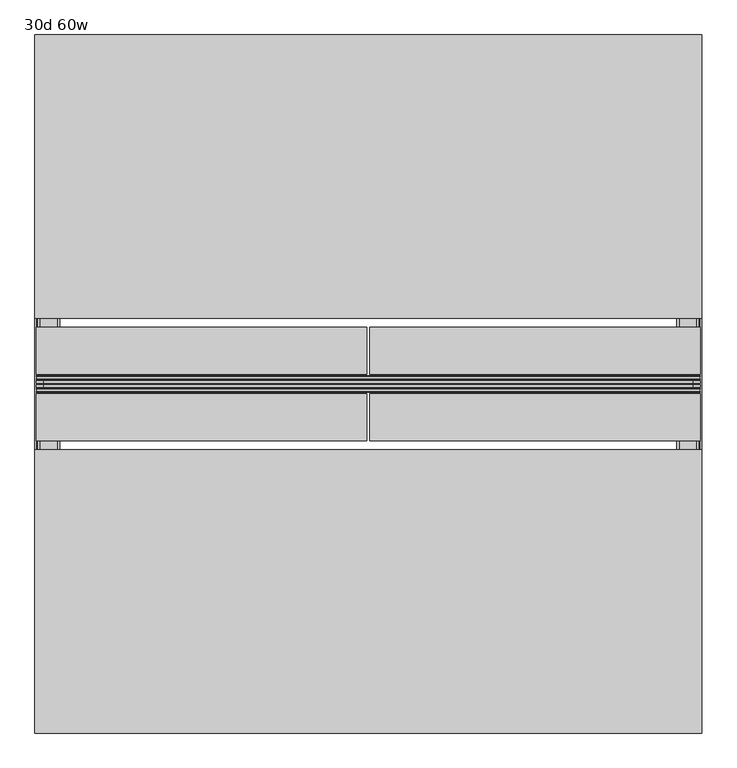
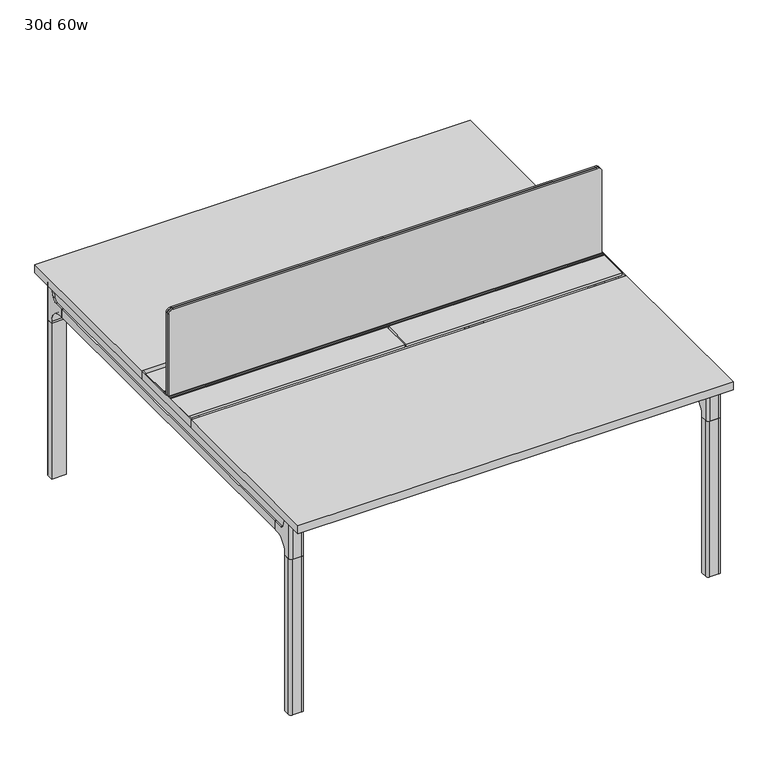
"""IFC4 building model written with IfcOpenShell, lengths in millimetres: furniture geometry, Haworth_Intuity_Benching_DoubleSided : 30d 60w."""

from ifc_helpers import new_model, si_unit, point, frame, frame_2d, origin, place, context, project, spatial, polyline, circle_curve, trimmed, segment, composite_curve, outline, extrude, source, transform, mapped, element, save
from ifc_brep_helpers import plane_surface, cylinder_surface, revolved_surface, advanced_brep


def furniture_30d_60w_e822043c(model_context):
    return source(origin(), model_context, "Body", "SolidModel", [
        extrude(outline(composite_curve([segment(polyline([(1054.89375, 955.675), (1054.89375, -523.875)]), True, "CONTINUOUS"), segment(trimmed(circle_curve(frame_2d((1039.01875, -523.875)), 15.875), [point((1054.89375, -523.875))], [point((1039.01875, -539.75))], False, "CARTESIAN"), True, "CONTINUOUS"), segment(polyline([(1039.01875, -539.75), (720.725, -539.75), (720.725, 971.55), (1039.01875, 971.55)]), True, "CONTINUOUS"), segment(trimmed(circle_curve(frame_2d((1039.01875, 955.675)), 15.875), [point((1039.01875, 971.55))], [point((1054.89375, 955.675))], False, "CARTESIAN"), True, "CONTINUOUS")], self_intersect=False)), frame((0.0, 198.1659766, 0.0), z_axis=(0.0, 1.0, 0.0), x_axis=(0.0, 0.0, 1.0)), (0.0, 0.0, 1.0), 3.175),
        extrude(outline(composite_curve([segment(polyline([(1058.06875, 958.85), (1058.06875, -527.05)]), True, "CONTINUOUS"), segment(trimmed(circle_curve(frame_2d((1042.19375, -527.05)), 15.875), [point((1058.06875, -527.05))], [point((1042.19375, -542.925))], False, "CARTESIAN"), True, "CONTINUOUS"), segment(polyline([(1042.19375, -542.925), (717.55, -542.925), (717.55, 974.725), (1042.19375, 974.725)]), True, "CONTINUOUS"), segment(trimmed(circle_curve(frame_2d((1042.19375, 958.85)), 15.875), [point((1042.19375, 974.725))], [point((1058.06875, 958.85))], False, "CARTESIAN"), True, "CONTINUOUS")], self_intersect=False)), frame((0.0, 192.6097266, 0.0), z_axis=(0.0, 1.0, 0.0), x_axis=(0.0, 0.0, 1.0)), (0.0, 0.0, 1.0), 5.55625),
        extrude(outline(composite_curve([segment(polyline([(1058.06875, 958.85), (1058.06875, -527.05)]), True, "CONTINUOUS"), segment(trimmed(circle_curve(frame_2d((1042.19375, -527.05)), 15.875), [point((1058.06875, -527.05))], [point((1042.19375, -542.925))], False, "CARTESIAN"), True, "CONTINUOUS"), segment(polyline([(1042.19375, -542.925), (717.55, -542.925), (717.55, 974.725), (1042.19375, 974.725)]), True, "CONTINUOUS"), segment(trimmed(circle_curve(frame_2d((1042.19375, 958.85)), 15.875), [point((1042.19375, 974.725))], [point((1058.06875, 958.85))], False, "CARTESIAN"), True, "CONTINUOUS")], self_intersect=False)), frame((0.0, 201.3409766, 0.0), z_axis=(0.0, 1.0, 0.0), x_axis=(0.0, 0.0, 1.0)), (0.0, 0.0, 1.0), 5.55625),
        extrude(outline(polyline([(218.8034766, 715.9625), (180.7034766, 715.9625), (180.7034766, 741.3625), (182.2909766, 741.3625), (182.2909766, 720.725), (188.6409766, 720.725), (188.6409766, 741.3625), (190.2284766, 741.3625), (190.2284766, 717.55), (209.2784766, 717.55), (209.2784766, 741.3625), (210.8659766, 741.3625), (210.8659766, 720.725), (217.2159766, 720.725), (217.2159766, 741.3625), (218.8034766, 741.3625), (218.8034766, 715.9625)])), frame((-542.925, 0.0, 0.0), z_axis=(1.0, 0.0, 0.0), x_axis=(0.0, 1.0, 0.0)), (0.0, 0.0, 1.0), 1517.65),
        extrude(outline(composite_curve([segment(polyline([(-505.8902734, 711.2), (905.3972266, 711.2), (896.3391258, 677.3947076)]), True, "CONTINUOUS"), segment(trimmed(circle_curve(frame_2d((881.0050533, 681.5034599)), 15.875), [point((896.3391258, 677.3947076))], [point((881.0050533, 665.6284599))], False, "CARTESIAN"), True, "CONTINUOUS"), segment(polyline([(881.0050533, 665.6284599), (-481.4981001, 665.6284599)]), True, "CONTINUOUS"), segment(trimmed(circle_curve(frame_2d((-481.4981001, 681.5034599)), 15.875), [point((-481.4981001, 665.6284599))], [point((-496.8321726, 677.3947076))], False, "CARTESIAN"), True, "CONTINUOUS"), segment(polyline([(-496.8321726, 677.3947076), (-505.8902734, 711.2)]), True, "CONTINUOUS")], self_intersect=False)), frame((927.1, 0.0, 0.0), z_axis=(1.0, 0.0, 0.0), x_axis=(0.0, 1.0, 0.0)), (0.0, 0.0, 1.0), 38.1),
        extrude(outline(polyline([(971.55, -445.5652734), (920.75, -445.5652734), (920.75, 845.0722266), (971.55, 845.0722266), (971.55, -445.5652734)])), frame((0.0, 0.0, 635.6476591), z_axis=(0.0, 0.0, 1.0), x_axis=(1.0, 0.0, 0.0)), (0.0, 0.0, 1.0), 29.9808008),
        extrude(outline(composite_curve([segment(polyline([(-505.8902734, 711.2), (905.3972266, 711.2), (896.3391258, 677.3947076)]), True, "CONTINUOUS"), segment(trimmed(circle_curve(frame_2d((881.0050533, 681.5034599)), 15.875), [point((896.3391258, 677.3947076))], [point((881.0050533, 665.6284599))], False, "CARTESIAN"), True, "CONTINUOUS"), segment(polyline([(881.0050533, 665.6284599), (-481.4981001, 665.6284599)]), True, "CONTINUOUS"), segment(trimmed(circle_curve(frame_2d((-481.4981001, 681.5034599)), 15.875), [point((-481.4981001, 665.6284599))], [point((-496.8321726, 677.3947076))], False, "CARTESIAN"), True, "CONTINUOUS"), segment(polyline([(-496.8321726, 677.3947076), (-505.8902734, 711.2)]), True, "CONTINUOUS")], self_intersect=False)), frame((-533.4, 0.0, 0.0), z_axis=(1.0, 0.0, 0.0), x_axis=(0.0, 1.0, 0.0)), (0.0, 0.0, 1.0), 38.1),
        extrude(outline(polyline([(-488.95, -445.5652734), (-539.75, -445.5652734), (-539.75, 845.0722266), (-488.95, 845.0722266), (-488.95, -445.5652734)])), frame((0.0, 0.0, 635.6476591), z_axis=(0.0, 0.0, 1.0), x_axis=(1.0, 0.0, 0.0)), (0.0, 0.0, 1.0), 29.9808008),
        advanced_brep(
        [(971.55, -505.9366022, 711.2), (971.55, -529.7027734, 711.2), (971.55, -529.7027734, 576.659375), (971.55, -507.4777734, 576.659375), (971.55, -507.4777734, 584.8476591), (971.55, -456.6777734, 635.6476591), (971.55, -445.5652734, 635.6476591), (971.55, -445.5652734, 665.6284599), (971.55, -481.5444289, 665.6284599), (971.55, -496.8785014, 677.3947076), (920.75, -507.4777734, 576.659375), (920.75, -529.7027734, 576.659375), (920.75, -529.7027734, 711.2), (920.75, -505.9366022, 711.2), (920.75, -496.8785014, 677.3947076), (920.75, -481.5444289, 665.6284599), (920.75, -445.5652734, 665.6284599), (920.75, -445.5652734, 635.6476591), (920.75, -456.6777734, 635.6476591), (920.75, -507.4777734, 584.8476591), (930.275, -539.2277734, 711.2), (962.025, -539.2277734, 711.2), (962.025, -539.2277734, 576.659375), (930.275, -539.2277734, 576.659375)],
        [
            (0, 1),
            (1, 2),
            (2, 3),
            (3, 4),
            (4, 5, circle_curve(frame((971.55, -456.6777734, 584.8476591), z_axis=(-1.0, 0.0, 0.0), x_axis=(0.0, -1.0, 0.0)), 50.8)),
            (5, 6),
            (6, 7),
            (7, 8),
            (8, 9, circle_curve(frame((971.55, -481.5444289, 681.5034599), z_axis=(-1.0, 0.0, 0.0), x_axis=(0.0, -1.0, 0.0)), 15.875)),
            (9, 0),
            (10, 11),
            (11, 12),
            (12, 13),
            (13, 14),
            (14, 15, circle_curve(frame((920.75, -481.5444289, 681.5034599), z_axis=(1.0, 0.0, 0.0), x_axis=(0.0, -1.0, 0.0)), 15.875)),
            (15, 16),
            (16, 17),
            (17, 18),
            (18, 19, circle_curve(frame((920.75, -456.6777734, 584.8476591), z_axis=(1.0, 0.0, 0.0), x_axis=(0.0, -1.0, 0.0)), 50.8)),
            (19, 10),
            (12, 20, circle_curve(frame((930.275, -529.7027734, 711.2), z_axis=(0.0, 0.0, 1.0), x_axis=(-1.0, 0.0, 0.0)), 9.525)),
            (20, 21),
            (21, 1, circle_curve(frame((962.025, -529.7027734, 711.2), z_axis=(0.0, 0.0, 1.0), x_axis=(-1.0, 0.0, 0.0)), 9.525)),
            (0, 13),
            (9, 14),
            (8, 15),
            (7, 16),
            (6, 17),
            (5, 18),
            (2, 22, circle_curve(frame((962.025, -529.7027734, 576.659375), z_axis=(0.0, 0.0, -1.0), x_axis=(-1.0, 0.0, 0.0)), 9.525)),
            (22, 23),
            (23, 11, circle_curve(frame((930.275, -529.7027734, 576.659375), z_axis=(0.0, 0.0, -1.0), x_axis=(-1.0, 0.0, 0.0)), 9.525)),
            (10, 3),
            (4, 19),
            (21, 22),
            (23, 20),
        ],
        [
            plane_surface(frame((971.55, -546.154303, 711.2), z_axis=(1.0, 0.0, 0.0), x_axis=(0.0, 1.0, 0.0))),
            plane_surface(frame((920.75, -546.154303, 711.2), z_axis=(-1.0, 0.0, 0.0), x_axis=(0.0, -1.0, 0.0))),
            plane_surface(frame((971.55, -546.154303, 711.2), z_axis=(0.0, 0.0, 1.0), x_axis=(-1.0, 0.0, 0.0))),
            plane_surface(frame((971.55, -505.9366022, 711.2), z_axis=(0.0, 0.9659258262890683, 0.2588190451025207), x_axis=(-1.0, 0.0, 0.0))),
            revolved_surface(polyline([(920.75, -497.4194289, 681.5034599), (971.55, -497.4194289, 681.5034599)]), (920.75, -481.5444289, 681.5034599), (-1.0, 0.0, 0.0)),
            plane_surface(frame((971.55, -481.5444289, 665.6284599), z_axis=(0.0, 0.0, 1.0), x_axis=(-1.0, 0.0, 0.0))),
            plane_surface(frame((971.55, -445.5652734, 665.6284599), z_axis=(0.0, 1.0, 0.0), x_axis=(-1.0, 0.0, 0.0))),
            plane_surface(frame((971.55, -445.5652734, 635.6476591), z_axis=(0.0, 0.0, -1.0), x_axis=(-1.0, 0.0, 0.0))),
            plane_surface(frame((971.55, -507.4777734, 576.659375), z_axis=(0.0, 0.0, -1.0), x_axis=(-1.0, 0.0, 0.0))),
            revolved_surface(polyline([(920.75, -507.4777734, 584.8476591), (971.55, -507.4777734, 584.8476591)]), (920.75, -456.6777734, 584.8476591), (-1.0, 0.0, 0.0)),
            plane_surface(frame((971.55, -507.4777734, 584.8476591), z_axis=(0.0, 1.0, 0.0), x_axis=(-1.0, 0.0, 0.0))),
            cylinder_surface(frame((962.025, -529.7027734, 524.9807374), z_axis=(0.0, 0.0, -1.0), x_axis=(-1.0, 0.0, 0.0)), 9.525),
            cylinder_surface(frame((930.275, -529.7027734, 524.9807374), z_axis=(0.0, 0.0, -1.0), x_axis=(-1.0, 0.0, 0.0)), 9.525),
            plane_surface(frame((930.275, -539.2277734, 711.2), z_axis=(0.0, -1.0, 0.0), x_axis=(0.0, 0.0, -1.0))),
        ],
        [
            (0, [[1, 2, 3, 4, 5, 6, 7, 8, 9, 10]]),
            (1, [[11, 12, 13, 14, 15, 16, 17, 18, 19, 20]]),
            (2, [[-13, 21, 22, 23, -1, 24]]),
            (3, [[25, -14, -24, -10]]),
            (4, [[26, -15, -25, -9]]),
            (5, [[27, -16, -26, -8]]),
            (6, [[28, -17, -27, -7]]),
            (7, [[29, -18, -28, -6]]),
            (8, [[-3, 30, 31, 32, -11, 33]]),
            (9, [[34, -19, -29, -5]]),
            (10, [[-33, -20, -34, -4]]),
            (11, [[-30, -2, -23, 35]]),
            (12, [[-21, -12, -32, 36]]),
            (13, [[-22, -36, -31, -35]]),
        ],
    ),
        advanced_brep(
        [(920.75, -507.4777734, 576.659375), (920.75, -529.7027734, 576.659375), (930.275, -539.2277734, 576.659375), (962.025, -539.2277734, 576.659375), (971.55, -529.7027734, 576.659375), (971.55, -507.4777734, 576.659375), (920.75, -507.4777734, 0.0), (971.55, -507.4777734, 0.0), (971.55, -529.7027734, 0.0), (962.025, -539.2277734, 0.0), (930.275, -539.2277734, 0.0), (920.75, -529.7027734, 0.0), (971.55, -529.7027734, 524.9807374), (962.025, -539.2277734, 524.9807374), (930.275, -539.2277734, 524.9807374), (920.75, -529.7027734, 524.9807374)],
        [
            (0, 1),
            (1, 2, circle_curve(frame((930.275, -529.7027734, 576.659375), z_axis=(0.0, 0.0, 1.0), x_axis=(-1.0, 0.0, 0.0)), 9.525)),
            (2, 3),
            (3, 4, circle_curve(frame((962.025, -529.7027734, 576.659375), z_axis=(0.0, 0.0, 1.0), x_axis=(-1.0, 0.0, 0.0)), 9.525)),
            (4, 5),
            (5, 0),
            (6, 7),
            (7, 8),
            (8, 9, circle_curve(frame((962.025, -529.7027734, 0.0), z_axis=(0.0, 0.0, -1.0), x_axis=(-1.0, 0.0, 0.0)), 9.525)),
            (9, 10),
            (10, 11, circle_curve(frame((930.275, -529.7027734, 0.0), z_axis=(0.0, 0.0, -1.0), x_axis=(-1.0, 0.0, 0.0)), 9.525)),
            (11, 6),
            (5, 7),
            (6, 0),
            (4, 12),
            (12, 8),
            (3, 13),
            (13, 9),
            (2, 14),
            (14, 10),
            (1, 15),
            (15, 11),
        ],
        [
            plane_surface(frame((978.7462903, -507.4777734, 576.659375), z_axis=(0.0, 0.0, 1.0), x_axis=(1.0, 0.0, 0.0))),
            plane_surface(frame((978.7462903, -507.4777734, 0.0), z_axis=(0.0, 0.0, -1.0), x_axis=(-1.0, 0.0, 0.0))),
            plane_surface(frame((920.75, -507.4777734, 576.659375), z_axis=(0.0, 1.0, 0.0), x_axis=(0.0, 0.0, -1.0))),
            plane_surface(frame((971.55, -507.4777734, 576.659375), z_axis=(1.0, 0.0, 0.0), x_axis=(0.0, 0.0, -1.0))),
            cylinder_surface(frame((962.025, -529.7027734, 0.0), z_axis=(0.0, 0.0, 1.0), x_axis=(-1.0, 0.0, 0.0)), 9.525),
            plane_surface(frame((962.025, -539.2277734, 576.659375), z_axis=(0.0, -1.0, 0.0), x_axis=(0.0, 0.0, -1.0))),
            cylinder_surface(frame((930.275, -529.7027734, 0.0), z_axis=(0.0, 0.0, 1.0), x_axis=(-1.0, 0.0, 0.0)), 9.525),
            plane_surface(frame((920.75, -529.7027734, 576.659375), z_axis=(-1.0, 0.0, 0.0), x_axis=(0.0, 0.0, -1.0))),
        ],
        [
            (0, [[1, 2, 3, 4, 5, 6]]),
            (1, [[7, 8, 9, 10, 11, 12]]),
            (2, [[13, -7, 14, -6]]),
            (3, [[15, 16, -8, -13, -5]]),
            (4, [[17, 18, -9, -16, -15, -4]]),
            (5, [[19, 20, -10, -18, -17, -3]]),
            (6, [[21, 22, -11, -20, -19, -2]]),
            (7, [[-14, -12, -22, -21, -1]]),
        ],
    ),
        advanced_brep(
        [(920.75, 905.4435553, 711.2), (920.75, 929.2097266, 711.2), (920.75, 929.2097266, 576.659375), (920.75, 906.9847266, 576.659375), (920.75, 906.9847266, 584.8476591), (920.75, 856.1847266, 635.6476591), (920.75, 845.0722266, 635.6476591), (920.75, 845.0722266, 665.6284599), (920.75, 881.051382, 665.6284599), (920.75, 896.3854545, 677.3947076), (971.55, 906.9847266, 576.659375), (971.55, 929.2097266, 576.659375), (971.55, 929.2097266, 711.2), (971.55, 905.4435553, 711.2), (971.55, 896.3854545, 677.3947076), (971.55, 881.051382, 665.6284599), (971.55, 845.0722266, 665.6284599), (971.55, 845.0722266, 635.6476591), (971.55, 856.1847266, 635.6476591), (971.55, 906.9847266, 584.8476591), (962.025, 938.7347266, 711.2), (930.275, 938.7347266, 711.2), (930.275, 938.7347266, 576.659375), (962.025, 938.7347266, 576.659375)],
        [
            (0, 1),
            (1, 2),
            (2, 3),
            (3, 4),
            (4, 5, circle_curve(frame((920.75, 856.1847266, 584.8476591), z_axis=(1.0, 0.0, 0.0), x_axis=(0.0, 1.0, 0.0)), 50.8)),
            (5, 6),
            (6, 7),
            (7, 8),
            (8, 9, circle_curve(frame((920.75, 881.051382, 681.5034599), z_axis=(1.0, 0.0, 0.0), x_axis=(0.0, 1.0, 0.0)), 15.875)),
            (9, 0),
            (10, 11),
            (11, 12),
            (12, 13),
            (13, 14),
            (14, 15, circle_curve(frame((971.55, 881.051382, 681.5034599), z_axis=(-1.0, 0.0, 0.0), x_axis=(0.0, 1.0, 0.0)), 15.875)),
            (15, 16),
            (16, 17),
            (17, 18),
            (18, 19, circle_curve(frame((971.55, 856.1847266, 584.8476591), z_axis=(-1.0, 0.0, 0.0), x_axis=(0.0, 1.0, 0.0)), 50.8)),
            (19, 10),
            (12, 20, circle_curve(frame((962.025, 929.2097266, 711.2), z_axis=(0.0, 0.0, 1.0), x_axis=(1.0, 0.0, 0.0)), 9.525)),
            (20, 21),
            (21, 1, circle_curve(frame((930.275, 929.2097266, 711.2), z_axis=(0.0, 0.0, 1.0), x_axis=(1.0, 0.0, 0.0)), 9.525)),
            (0, 13),
            (9, 14),
            (8, 15),
            (7, 16),
            (6, 17),
            (5, 18),
            (2, 22, circle_curve(frame((930.275, 929.2097266, 576.659375), z_axis=(0.0, 0.0, -1.0), x_axis=(1.0, 0.0, 0.0)), 9.525)),
            (22, 23),
            (23, 11, circle_curve(frame((962.025, 929.2097266, 576.659375), z_axis=(0.0, 0.0, -1.0), x_axis=(1.0, 0.0, 0.0)), 9.525)),
            (10, 3),
            (4, 19),
            (21, 22),
            (23, 20),
        ],
        [
            plane_surface(frame((920.75, 945.6612561, 711.2), z_axis=(-1.0, 0.0, 0.0), x_axis=(0.0, -1.0, 0.0))),
            plane_surface(frame((971.55, 945.6612561, 711.2), z_axis=(1.0, 0.0, 0.0), x_axis=(0.0, 1.0, 0.0))),
            plane_surface(frame((920.75, 945.6612561, 711.2), z_axis=(0.0, 0.0, 1.0), x_axis=(1.0, 0.0, 0.0))),
            plane_surface(frame((920.75, 905.4435553, 711.2), z_axis=(0.0, -0.9659258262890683, 0.2588190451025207), x_axis=(1.0, 0.0, 0.0))),
            revolved_surface(polyline([(971.55, 896.926382, 681.5034599), (920.75, 896.926382, 681.5034599)]), (971.55, 881.051382, 681.5034599), (1.0, 0.0, 0.0)),
            plane_surface(frame((920.75, 881.051382, 665.6284599), z_axis=(0.0, 0.0, 1.0), x_axis=(1.0, 0.0, 0.0))),
            plane_surface(frame((920.75, 845.0722266, 665.6284599), z_axis=(0.0, -1.0, 0.0), x_axis=(1.0, 0.0, 0.0))),
            plane_surface(frame((920.75, 845.0722266, 635.6476591), z_axis=(0.0, 0.0, -1.0), x_axis=(1.0, 0.0, 0.0))),
            plane_surface(frame((920.75, 906.9847266, 576.659375), z_axis=(0.0, 0.0, -1.0), x_axis=(1.0, 0.0, 0.0))),
            revolved_surface(polyline([(971.55, 906.9847265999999, 584.8476591), (920.75, 906.9847265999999, 584.8476591)]), (971.55, 856.1847266, 584.8476591), (1.0, 0.0, 0.0)),
            plane_surface(frame((920.75, 906.9847266, 584.8476591), z_axis=(0.0, -1.0, 0.0), x_axis=(1.0, 0.0, 0.0))),
            cylinder_surface(frame((930.275, 929.2097266, 524.9807374), z_axis=(0.0, 0.0, -1.0), x_axis=(1.0, 0.0, 0.0)), 9.525),
            cylinder_surface(frame((962.025, 929.2097266, 524.9807374), z_axis=(0.0, 0.0, -1.0), x_axis=(1.0, 0.0, 0.0)), 9.525),
            plane_surface(frame((962.025, 938.7347266, 711.2), z_axis=(0.0, 1.0, 0.0), x_axis=(0.0, 0.0, -1.0))),
        ],
        [
            (0, [[1, 2, 3, 4, 5, 6, 7, 8, 9, 10]]),
            (1, [[11, 12, 13, 14, 15, 16, 17, 18, 19, 20]]),
            (2, [[-13, 21, 22, 23, -1, 24]]),
            (3, [[25, -14, -24, -10]]),
            (4, [[26, -15, -25, -9]]),
            (5, [[27, -16, -26, -8]]),
            (6, [[28, -17, -27, -7]]),
            (7, [[29, -18, -28, -6]]),
            (8, [[-3, 30, 31, 32, -11, 33]]),
            (9, [[34, -19, -29, -5]]),
            (10, [[-33, -20, -34, -4]]),
            (11, [[-30, -2, -23, 35]]),
            (12, [[-21, -12, -32, 36]]),
            (13, [[-22, -36, -31, -35]]),
        ],
    ),
        advanced_brep(
        [(971.55, 906.9847266, 576.659375), (971.55, 929.2097266, 576.659375), (962.025, 938.7347266, 576.659375), (930.275, 938.7347266, 576.659375), (920.75, 929.2097266, 576.659375), (920.75, 906.9847266, 576.659375), (971.55, 906.9847266, 0.0), (920.75, 906.9847266, 0.0), (920.75, 929.2097266, 0.0), (930.275, 938.7347266, 0.0), (962.025, 938.7347266, 0.0), (971.55, 929.2097266, 0.0), (920.75, 929.2097266, 524.9807374), (930.275, 938.7347266, 524.9807374), (962.025, 938.7347266, 524.9807374), (971.55, 929.2097266, 524.9807374)],
        [
            (0, 1),
            (1, 2, circle_curve(frame((962.025, 929.2097266, 576.659375), z_axis=(0.0, 0.0, 1.0), x_axis=(1.0, 0.0, 0.0)), 9.525)),
            (2, 3),
            (3, 4, circle_curve(frame((930.275, 929.2097266, 576.659375), z_axis=(0.0, 0.0, 1.0), x_axis=(1.0, 0.0, 0.0)), 9.525)),
            (4, 5),
            (5, 0),
            (6, 7),
            (7, 8),
            (8, 9, circle_curve(frame((930.275, 929.2097266, 0.0), z_axis=(0.0, 0.0, -1.0), x_axis=(1.0, 0.0, 0.0)), 9.525)),
            (9, 10),
            (10, 11, circle_curve(frame((962.025, 929.2097266, 0.0), z_axis=(0.0, 0.0, -1.0), x_axis=(1.0, 0.0, 0.0)), 9.525)),
            (11, 6),
            (5, 7),
            (6, 0),
            (4, 12),
            (12, 8),
            (3, 13),
            (13, 9),
            (2, 14),
            (14, 10),
            (1, 15),
            (15, 11),
        ],
        [
            plane_surface(frame((913.5537097, 906.9847266, 576.659375), z_axis=(0.0, 0.0, 1.0), x_axis=(-1.0, 0.0, 0.0))),
            plane_surface(frame((913.5537097, 906.9847266, 0.0), z_axis=(0.0, 0.0, -1.0), x_axis=(1.0, 0.0, 0.0))),
            plane_surface(frame((971.55, 906.9847266, 576.659375), z_axis=(0.0, -1.0, 0.0), x_axis=(0.0, 0.0, -1.0))),
            plane_surface(frame((920.75, 906.9847266, 576.659375), z_axis=(-1.0, 0.0, 0.0), x_axis=(0.0, 0.0, -1.0))),
            cylinder_surface(frame((930.275, 929.2097266, 0.0), z_axis=(0.0, 0.0, 1.0), x_axis=(1.0, 0.0, 0.0)), 9.525),
            plane_surface(frame((930.275, 938.7347266, 576.659375), z_axis=(0.0, 1.0, 0.0), x_axis=(0.0, 0.0, -1.0))),
            cylinder_surface(frame((962.025, 929.2097266, 0.0), z_axis=(0.0, 0.0, 1.0), x_axis=(1.0, 0.0, 0.0)), 9.525),
            plane_surface(frame((971.55, 929.2097266, 576.659375), z_axis=(1.0, 0.0, 0.0), x_axis=(0.0, 0.0, -1.0))),
        ],
        [
            (0, [[1, 2, 3, 4, 5, 6]]),
            (1, [[7, 8, 9, 10, 11, 12]]),
            (2, [[13, -7, 14, -6]]),
            (3, [[15, 16, -8, -13, -5]]),
            (4, [[17, 18, -9, -16, -15, -4]]),
            (5, [[19, 20, -10, -18, -17, -3]]),
            (6, [[21, 22, -11, -20, -19, -2]]),
            (7, [[-14, -12, -22, -21, -1]]),
        ],
    ),
        advanced_brep(
        [(-488.95, -505.9366022, 711.2), (-488.95, -529.7027734, 711.2), (-488.95, -529.7027734, 576.659375), (-488.95, -507.4777734, 576.659375), (-488.95, -507.4777734, 584.8476591), (-488.95, -456.6777734, 635.6476591), (-488.95, -445.5652734, 635.6476591), (-488.95, -445.5652734, 665.6284599), (-488.95, -481.5444289, 665.6284599), (-488.95, -496.8785014, 677.3947076), (-539.75, -507.4777734, 576.659375), (-539.75, -529.7027734, 576.659375), (-539.75, -529.7027734, 711.2), (-539.75, -505.9366022, 711.2), (-539.75, -496.8785014, 677.3947076), (-539.75, -481.5444289, 665.6284599), (-539.75, -445.5652734, 665.6284599), (-539.75, -445.5652734, 635.6476591), (-539.75, -456.6777734, 635.6476591), (-539.75, -507.4777734, 584.8476591), (-530.225, -539.2277734, 711.2), (-498.475, -539.2277734, 711.2), (-498.475, -539.2277734, 576.659375), (-530.225, -539.2277734, 576.659375)],
        [
            (0, 1),
            (1, 2),
            (2, 3),
            (3, 4),
            (4, 5, circle_curve(frame((-488.95, -456.6777734, 584.8476591), z_axis=(-1.0, 0.0, 0.0), x_axis=(0.0, -1.0, 0.0)), 50.8)),
            (5, 6),
            (6, 7),
            (7, 8),
            (8, 9, circle_curve(frame((-488.95, -481.5444289, 681.5034599), z_axis=(-1.0, 0.0, 0.0), x_axis=(0.0, -1.0, 0.0)), 15.875)),
            (9, 0),
            (10, 11),
            (11, 12),
            (12, 13),
            (13, 14),
            (14, 15, circle_curve(frame((-539.75, -481.5444289, 681.5034599), z_axis=(1.0, 0.0, 0.0), x_axis=(0.0, -1.0, 0.0)), 15.875)),
            (15, 16),
            (16, 17),
            (17, 18),
            (18, 19, circle_curve(frame((-539.75, -456.6777734, 584.8476591), z_axis=(1.0, 0.0, 0.0), x_axis=(0.0, -1.0, 0.0)), 50.8)),
            (19, 10),
            (12, 20, circle_curve(frame((-530.225, -529.7027734, 711.2), z_axis=(0.0, 0.0, 1.0), x_axis=(-1.0, 0.0, 0.0)), 9.525)),
            (20, 21),
            (21, 1, circle_curve(frame((-498.475, -529.7027734, 711.2), z_axis=(0.0, 0.0, 1.0), x_axis=(-1.0, 0.0, 0.0)), 9.525)),
            (0, 13),
            (9, 14),
            (8, 15),
            (7, 16),
            (6, 17),
            (5, 18),
            (2, 22, circle_curve(frame((-498.475, -529.7027734, 576.659375), z_axis=(0.0, 0.0, -1.0), x_axis=(-1.0, 0.0, 0.0)), 9.525)),
            (22, 23),
            (23, 11, circle_curve(frame((-530.225, -529.7027734, 576.659375), z_axis=(0.0, 0.0, -1.0), x_axis=(-1.0, 0.0, 0.0)), 9.525)),
            (10, 3),
            (4, 19),
            (21, 22),
            (23, 20),
        ],
        [
            plane_surface(frame((-488.95, -546.154303, 711.2), z_axis=(1.0, 0.0, 0.0), x_axis=(0.0, 1.0, 0.0))),
            plane_surface(frame((-539.75, -546.154303, 711.2), z_axis=(-1.0, 0.0, 0.0), x_axis=(0.0, -1.0, 0.0))),
            plane_surface(frame((-488.95, -546.154303, 711.2), z_axis=(0.0, 0.0, 1.0), x_axis=(-1.0, 0.0, 0.0))),
            plane_surface(frame((-488.95, -505.9366022, 711.2), z_axis=(0.0, 0.9659258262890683, 0.2588190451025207), x_axis=(-1.0, 0.0, 0.0))),
            revolved_surface(polyline([(-539.75, -497.4194289, 681.5034599), (-488.95, -497.4194289, 681.5034599)]), (-539.75, -481.5444289, 681.5034599), (-1.0, 0.0, 0.0)),
            plane_surface(frame((-488.95, -481.5444289, 665.6284599), z_axis=(0.0, 0.0, 1.0), x_axis=(-1.0, 0.0, 0.0))),
            plane_surface(frame((-488.95, -445.5652734, 665.6284599), z_axis=(0.0, 1.0, 0.0), x_axis=(-1.0, 0.0, 0.0))),
            plane_surface(frame((-488.95, -445.5652734, 635.6476591), z_axis=(0.0, 0.0, -1.0), x_axis=(-1.0, 0.0, 0.0))),
            plane_surface(frame((-488.95, -507.4777734, 576.659375), z_axis=(0.0, 0.0, -1.0), x_axis=(-1.0, 0.0, 0.0))),
            revolved_surface(polyline([(-539.75, -507.4777734, 584.8476591), (-488.95, -507.4777734, 584.8476591)]), (-539.75, -456.6777734, 584.8476591), (-1.0, 0.0, 0.0)),
            plane_surface(frame((-488.95, -507.4777734, 584.8476591), z_axis=(0.0, 1.0, 0.0), x_axis=(-1.0, 0.0, 0.0))),
            cylinder_surface(frame((-498.475, -529.7027734, 524.9807374), z_axis=(0.0, 0.0, -1.0), x_axis=(-1.0, 0.0, 0.0)), 9.525),
            cylinder_surface(frame((-530.225, -529.7027734, 524.9807374), z_axis=(0.0, 0.0, -1.0), x_axis=(-1.0, 0.0, 0.0)), 9.525),
            plane_surface(frame((-530.225, -539.2277734, 711.2), z_axis=(0.0, -1.0, 0.0), x_axis=(0.0, 0.0, -1.0))),
        ],
        [
            (0, [[1, 2, 3, 4, 5, 6, 7, 8, 9, 10]]),
            (1, [[11, 12, 13, 14, 15, 16, 17, 18, 19, 20]]),
            (2, [[-13, 21, 22, 23, -1, 24]]),
            (3, [[25, -14, -24, -10]]),
            (4, [[26, -15, -25, -9]]),
            (5, [[27, -16, -26, -8]]),
            (6, [[28, -17, -27, -7]]),
            (7, [[29, -18, -28, -6]]),
            (8, [[-3, 30, 31, 32, -11, 33]]),
            (9, [[34, -19, -29, -5]]),
            (10, [[-33, -20, -34, -4]]),
            (11, [[-30, -2, -23, 35]]),
            (12, [[-21, -12, -32, 36]]),
            (13, [[-22, -36, -31, -35]]),
        ],
    ),
        advanced_brep(
        [(-539.75, -507.4777734, 576.659375), (-539.75, -529.7027734, 576.659375), (-530.225, -539.2277734, 576.659375), (-498.475, -539.2277734, 576.659375), (-488.95, -529.7027734, 576.659375), (-488.95, -507.4777734, 576.659375), (-539.75, -507.4777734, 0.0), (-488.95, -507.4777734, 0.0), (-488.95, -529.7027734, 0.0), (-498.475, -539.2277734, 0.0), (-530.225, -539.2277734, 0.0), (-539.75, -529.7027734, 0.0), (-488.95, -529.7027734, 524.9807374), (-498.475, -539.2277734, 524.9807374), (-530.225, -539.2277734, 524.9807374), (-539.75, -529.7027734, 524.9807374)],
        [
            (0, 1),
            (1, 2, circle_curve(frame((-530.225, -529.7027734, 576.659375), z_axis=(0.0, 0.0, 1.0), x_axis=(-1.0, 0.0, 0.0)), 9.525)),
            (2, 3),
            (3, 4, circle_curve(frame((-498.475, -529.7027734, 576.659375), z_axis=(0.0, 0.0, 1.0), x_axis=(-1.0, 0.0, 0.0)), 9.525)),
            (4, 5),
            (5, 0),
            (6, 7),
            (7, 8),
            (8, 9, circle_curve(frame((-498.475, -529.7027734, 0.0), z_axis=(0.0, 0.0, -1.0), x_axis=(-1.0, 0.0, 0.0)), 9.525)),
            (9, 10),
            (10, 11, circle_curve(frame((-530.225, -529.7027734, 0.0), z_axis=(0.0, 0.0, -1.0), x_axis=(-1.0, 0.0, 0.0)), 9.525)),
            (11, 6),
            (5, 7),
            (6, 0),
            (4, 12),
            (12, 8),
            (3, 13),
            (13, 9),
            (2, 14),
            (14, 10),
            (1, 15),
            (15, 11),
        ],
        [
            plane_surface(frame((-481.7537097, -507.4777734, 576.659375), z_axis=(0.0, 0.0, 1.0), x_axis=(1.0, 0.0, 0.0))),
            plane_surface(frame((-481.7537097, -507.4777734, 0.0), z_axis=(0.0, 0.0, -1.0), x_axis=(-1.0, 0.0, 0.0))),
            plane_surface(frame((-539.75, -507.4777734, 576.659375), z_axis=(0.0, 1.0, 0.0), x_axis=(0.0, 0.0, -1.0))),
            plane_surface(frame((-488.95, -507.4777734, 576.659375), z_axis=(1.0, 0.0, 0.0), x_axis=(0.0, 0.0, -1.0))),
            cylinder_surface(frame((-498.475, -529.7027734, 0.0), z_axis=(0.0, 0.0, 1.0), x_axis=(-1.0, 0.0, 0.0)), 9.525),
            plane_surface(frame((-498.475, -539.2277734, 576.659375), z_axis=(0.0, -1.0, 0.0), x_axis=(0.0, 0.0, -1.0))),
            cylinder_surface(frame((-530.225, -529.7027734, 0.0), z_axis=(0.0, 0.0, 1.0), x_axis=(-1.0, 0.0, 0.0)), 9.525),
            plane_surface(frame((-539.75, -529.7027734, 576.659375), z_axis=(-1.0, 0.0, 0.0), x_axis=(0.0, 0.0, -1.0))),
        ],
        [
            (0, [[1, 2, 3, 4, 5, 6]]),
            (1, [[7, 8, 9, 10, 11, 12]]),
            (2, [[13, -7, 14, -6]]),
            (3, [[15, 16, -8, -13, -5]]),
            (4, [[17, 18, -9, -16, -15, -4]]),
            (5, [[19, 20, -10, -18, -17, -3]]),
            (6, [[21, 22, -11, -20, -19, -2]]),
            (7, [[-14, -12, -22, -21, -1]]),
        ],
    ),
        advanced_brep(
        [(-539.75, 905.4435553, 711.2), (-539.75, 929.2097266, 711.2), (-539.75, 929.2097266, 576.659375), (-539.75, 906.9847266, 576.659375), (-539.75, 906.9847266, 584.8476591), (-539.75, 856.1847266, 635.6476591), (-539.75, 845.0722266, 635.6476591), (-539.75, 845.0722266, 665.6284599), (-539.75, 881.051382, 665.6284599), (-539.75, 896.3854545, 677.3947076), (-488.95, 906.9847266, 576.659375), (-488.95, 929.2097266, 576.659375), (-488.95, 929.2097266, 711.2), (-488.95, 905.4435553, 711.2), (-488.95, 896.3854545, 677.3947076), (-488.95, 881.051382, 665.6284599), (-488.95, 845.0722266, 665.6284599), (-488.95, 845.0722266, 635.6476591), (-488.95, 856.1847266, 635.6476591), (-488.95, 906.9847266, 584.8476591), (-498.475, 938.7347266, 711.2), (-530.225, 938.7347266, 711.2), (-530.225, 938.7347266, 576.659375), (-498.475, 938.7347266, 576.659375)],
        [
            (0, 1),
            (1, 2),
            (2, 3),
            (3, 4),
            (4, 5, circle_curve(frame((-539.75, 856.1847266, 584.8476591), z_axis=(1.0, 0.0, 0.0), x_axis=(0.0, 1.0, 0.0)), 50.8)),
            (5, 6),
            (6, 7),
            (7, 8),
            (8, 9, circle_curve(frame((-539.75, 881.051382, 681.5034599), z_axis=(1.0, 0.0, 0.0), x_axis=(0.0, 1.0, 0.0)), 15.875)),
            (9, 0),
            (10, 11),
            (11, 12),
            (12, 13),
            (13, 14),
            (14, 15, circle_curve(frame((-488.95, 881.051382, 681.5034599), z_axis=(-1.0, 0.0, 0.0), x_axis=(0.0, 1.0, 0.0)), 15.875)),
            (15, 16),
            (16, 17),
            (17, 18),
            (18, 19, circle_curve(frame((-488.95, 856.1847266, 584.8476591), z_axis=(-1.0, 0.0, 0.0), x_axis=(0.0, 1.0, 0.0)), 50.8)),
            (19, 10),
            (12, 20, circle_curve(frame((-498.475, 929.2097266, 711.2), z_axis=(0.0, 0.0, 1.0), x_axis=(1.0, 0.0, 0.0)), 9.525)),
            (20, 21),
            (21, 1, circle_curve(frame((-530.225, 929.2097266, 711.2), z_axis=(0.0, 0.0, 1.0), x_axis=(1.0, 0.0, 0.0)), 9.525)),
            (0, 13),
            (9, 14),
            (8, 15),
            (7, 16),
            (6, 17),
            (5, 18),
            (2, 22, circle_curve(frame((-530.225, 929.2097266, 576.659375), z_axis=(0.0, 0.0, -1.0), x_axis=(1.0, 0.0, 0.0)), 9.525)),
            (22, 23),
            (23, 11, circle_curve(frame((-498.475, 929.2097266, 576.659375), z_axis=(0.0, 0.0, -1.0), x_axis=(1.0, 0.0, 0.0)), 9.525)),
            (10, 3),
            (4, 19),
            (21, 22),
            (23, 20),
        ],
        [
            plane_surface(frame((-539.75, 945.6612561, 711.2), z_axis=(-1.0, 0.0, 0.0), x_axis=(0.0, -1.0, 0.0))),
            plane_surface(frame((-488.95, 945.6612561, 711.2), z_axis=(1.0, 0.0, 0.0), x_axis=(0.0, 1.0, 0.0))),
            plane_surface(frame((-539.75, 945.6612561, 711.2), z_axis=(0.0, 0.0, 1.0), x_axis=(1.0, 0.0, 0.0))),
            plane_surface(frame((-539.75, 905.4435553, 711.2), z_axis=(0.0, -0.9659258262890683, 0.2588190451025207), x_axis=(1.0, 0.0, 0.0))),
            revolved_surface(polyline([(-488.95, 896.926382, 681.5034599), (-539.75, 896.926382, 681.5034599)]), (-488.95, 881.051382, 681.5034599), (1.0, 0.0, 0.0)),
            plane_surface(frame((-539.75, 881.051382, 665.6284599), z_axis=(0.0, 0.0, 1.0), x_axis=(1.0, 0.0, 0.0))),
            plane_surface(frame((-539.75, 845.0722266, 665.6284599), z_axis=(0.0, -1.0, 0.0), x_axis=(1.0, 0.0, 0.0))),
            plane_surface(frame((-539.75, 845.0722266, 635.6476591), z_axis=(0.0, 0.0, -1.0), x_axis=(1.0, 0.0, 0.0))),
            plane_surface(frame((-539.75, 906.9847266, 576.659375), z_axis=(0.0, 0.0, -1.0), x_axis=(1.0, 0.0, 0.0))),
            revolved_surface(polyline([(-488.95, 906.9847265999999, 584.8476591), (-539.75, 906.9847265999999, 584.8476591)]), (-488.95, 856.1847266, 584.8476591), (1.0, 0.0, 0.0)),
            plane_surface(frame((-539.75, 906.9847266, 584.8476591), z_axis=(0.0, -1.0, 0.0), x_axis=(1.0, 0.0, 0.0))),
            cylinder_surface(frame((-530.225, 929.2097266, 524.9807374), z_axis=(0.0, 0.0, -1.0), x_axis=(1.0, 0.0, 0.0)), 9.525),
            cylinder_surface(frame((-498.475, 929.2097266, 524.9807374), z_axis=(0.0, 0.0, -1.0), x_axis=(1.0, 0.0, 0.0)), 9.525),
            plane_surface(frame((-498.475, 938.7347266, 711.2), z_axis=(0.0, 1.0, 0.0), x_axis=(0.0, 0.0, -1.0))),
        ],
        [
            (0, [[1, 2, 3, 4, 5, 6, 7, 8, 9, 10]]),
            (1, [[11, 12, 13, 14, 15, 16, 17, 18, 19, 20]]),
            (2, [[-13, 21, 22, 23, -1, 24]]),
            (3, [[25, -14, -24, -10]]),
            (4, [[26, -15, -25, -9]]),
            (5, [[27, -16, -26, -8]]),
            (6, [[28, -17, -27, -7]]),
            (7, [[29, -18, -28, -6]]),
            (8, [[-3, 30, 31, 32, -11, 33]]),
            (9, [[34, -19, -29, -5]]),
            (10, [[-33, -20, -34, -4]]),
            (11, [[-30, -2, -23, 35]]),
            (12, [[-21, -12, -32, 36]]),
            (13, [[-22, -36, -31, -35]]),
        ],
    ),
        advanced_brep(
        [(-488.95, 906.9847266, 576.659375), (-488.95, 929.2097266, 576.659375), (-498.475, 938.7347266, 576.659375), (-530.225, 938.7347266, 576.659375), (-539.75, 929.2097266, 576.659375), (-539.75, 906.9847266, 576.659375), (-488.95, 906.9847266, 0.0), (-539.75, 906.9847266, 0.0), (-539.75, 929.2097266, 0.0), (-530.225, 938.7347266, 0.0), (-498.475, 938.7347266, 0.0), (-488.95, 929.2097266, 0.0), (-539.75, 929.2097266, 524.9807374), (-530.225, 938.7347266, 524.9807374), (-498.475, 938.7347266, 524.9807374), (-488.95, 929.2097266, 524.9807374)],
        [
            (0, 1),
            (1, 2, circle_curve(frame((-498.475, 929.2097266, 576.659375), z_axis=(0.0, 0.0, 1.0), x_axis=(1.0, 0.0, 0.0)), 9.525)),
            (2, 3),
            (3, 4, circle_curve(frame((-530.225, 929.2097266, 576.659375), z_axis=(0.0, 0.0, 1.0), x_axis=(1.0, 0.0, 0.0)), 9.525)),
            (4, 5),
            (5, 0),
            (6, 7),
            (7, 8),
            (8, 9, circle_curve(frame((-530.225, 929.2097266, 0.0), z_axis=(0.0, 0.0, -1.0), x_axis=(1.0, 0.0, 0.0)), 9.525)),
            (9, 10),
            (10, 11, circle_curve(frame((-498.475, 929.2097266, 0.0), z_axis=(0.0, 0.0, -1.0), x_axis=(1.0, 0.0, 0.0)), 9.525)),
            (11, 6),
            (5, 7),
            (6, 0),
            (4, 12),
            (12, 8),
            (3, 13),
            (13, 9),
            (2, 14),
            (14, 10),
            (1, 15),
            (15, 11),
        ],
        [
            plane_surface(frame((-546.9462903, 906.9847266, 576.659375), z_axis=(0.0, 0.0, 1.0), x_axis=(-1.0, 0.0, 0.0))),
            plane_surface(frame((-546.9462903, 906.9847266, 0.0), z_axis=(0.0, 0.0, -1.0), x_axis=(1.0, 0.0, 0.0))),
            plane_surface(frame((-488.95, 906.9847266, 576.659375), z_axis=(0.0, -1.0, 0.0), x_axis=(0.0, 0.0, -1.0))),
            plane_surface(frame((-539.75, 906.9847266, 576.659375), z_axis=(-1.0, 0.0, 0.0), x_axis=(0.0, 0.0, -1.0))),
            cylinder_surface(frame((-530.225, 929.2097266, 0.0), z_axis=(0.0, 0.0, 1.0), x_axis=(1.0, 0.0, 0.0)), 9.525),
            plane_surface(frame((-530.225, 938.7347266, 576.659375), z_axis=(0.0, 1.0, 0.0), x_axis=(0.0, 0.0, -1.0))),
            cylinder_surface(frame((-498.475, 929.2097266, 0.0), z_axis=(0.0, 0.0, 1.0), x_axis=(1.0, 0.0, 0.0)), 9.525),
            plane_surface(frame((-488.95, 929.2097266, 576.659375), z_axis=(1.0, 0.0, 0.0), x_axis=(0.0, 0.0, -1.0))),
        ],
        [
            (0, [[1, 2, 3, 4, 5, 6]]),
            (1, [[7, 8, 9, 10, 11, 12]]),
            (2, [[13, -7, 14, -6]]),
            (3, [[15, 16, -8, -13, -5]]),
            (4, [[17, 18, -9, -16, -15, -4]]),
            (5, [[19, 20, -10, -18, -17, -3]]),
            (6, [[21, 22, -11, -20, -19, -2]]),
            (7, [[-14, -12, -22, -21, -1]]),
        ],
    ),
        extrude(outline(polyline([(-546.1, 49.7347266), (977.9, 49.7347266), (977.9, -597.9652734), (-546.1, -597.9652734), (-546.1, 49.7347266)])), frame((0.0, 0.0, 711.2), z_axis=(0.0, 0.0, 1.0), x_axis=(1.0, 0.0, 0.0)), (0.0, 0.0, 1.0), 30.1625),
        extrude(outline(polyline([(977.9, 349.7722266), (-546.1, 349.7722266), (-546.1, 997.4722266), (977.9, 997.4722266), (977.9, 349.7722266)])), frame((0.0, 0.0, 711.2), z_axis=(0.0, 0.0, 1.0), x_axis=(1.0, 0.0, 0.0)), (0.0, 0.0, 1.0), 30.1625),
        extrude(outline(polyline([(212.725, 69.5784766), (-542.925, 69.5784766), (-542.925, 177.5284766), (212.725, 177.5284766), (212.725, 69.5784766)])), frame((0.0, 0.0, 731.8375), z_axis=(0.0, 0.0, 1.0), x_axis=(1.0, 0.0, 0.0)), (0.0, 0.0, 1.0), 9.525),
        extrude(outline(polyline([(212.725, 221.9784766), (-542.925, 221.9784766), (-542.925, 329.9284766), (212.725, 329.9284766), (212.725, 221.9784766)])), frame((0.0, 0.0, 731.8375), z_axis=(0.0, 0.0, 1.0), x_axis=(1.0, 0.0, 0.0)), (0.0, 0.0, 1.0), 9.525),
        extrude(outline(polyline([(974.725, 69.5784766), (219.075, 69.5784766), (219.075, 177.5284766), (974.725, 177.5284766), (974.725, 69.5784766)])), frame((0.0, 0.0, 731.8375), z_axis=(0.0, 0.0, 1.0), x_axis=(1.0, 0.0, 0.0)), (0.0, 0.0, 1.0), 9.525),
        extrude(outline(polyline([(974.725, 221.9784766), (219.075, 221.9784766), (219.075, 329.9284766), (974.725, 329.9284766), (974.725, 221.9784766)])), frame((0.0, 0.0, 731.8375), z_axis=(0.0, 0.0, 1.0), x_axis=(1.0, 0.0, 0.0)), (0.0, 0.0, 1.0), 9.525),
        extrude(outline(polyline([(920.75, -9.7965234), (-488.95, -9.7965234), (-488.95, 21.9534766), (920.75, 21.9534766), (920.75, -9.7965234)])), frame((0.0, 0.0, 646.1125), z_axis=(0.0, 0.0, 1.0), x_axis=(1.0, 0.0, 0.0)), (0.0, 0.0, 1.0), 50.8),
        extrude(outline(polyline([(920.75, 377.5534766), (-488.95, 377.5534766), (-488.95, 409.3034766), (920.75, 409.3034766), (920.75, 377.5534766)])), frame((0.0, 0.0, 646.1125), z_axis=(0.0, 0.0, 1.0), x_axis=(1.0, 0.0, 0.0)), (0.0, 0.0, 1.0), 50.8),
        extrude(outline(polyline([(977.9, 49.7347266), (974.725, 49.7347266), (974.725, 349.7722266), (977.9, 349.7722266), (977.9, 49.7347266)])), frame((0.0, 0.0, 711.2), z_axis=(0.0, 0.0, 1.0), x_axis=(1.0, 0.0, 0.0)), (0.0, 0.0, 1.0), 30.1625),
        extrude(outline(polyline([(-542.925, 49.7347266), (-546.1, 49.7347266), (-546.1, 349.7722266), (-542.925, 349.7722266), (-542.925, 49.7347266)])), frame((0.0, 0.0, 711.2), z_axis=(0.0, 0.0, 1.0), x_axis=(1.0, 0.0, 0.0)), (0.0, 0.0, 1.0), 30.1625),
    ])


if __name__ == "__main__":
    model = new_model("IFC4")
    model_context = context("Model", 3, world=origin())
    ifc_project = project(units=[si_unit("LENGTHUNIT", "METRE", prefix="MILLI")], contexts=[model_context])
    site = spatial("IfcSite", under=ifc_project)
    building = spatial("IfcBuilding", under=site)
    placement = place(None, origin())
    furniture_30d_60w_shape = furniture_30d_60w_e822043c(model_context)
    element("IfcFurniture", 1, ObjectType="Haworth_Intuity_Benching_DoubleSided : 30d 60w", at=placement, inside=building, context=model_context, shape_type="MappedRepresentation", body=[
        mapped(furniture_30d_60w_shape, transform((0.0, 0.0, 0.0), x_axis=(1.0, 0.0, 0.0), y_axis=(0.0, 1.0, 0.0), z_axis=(0.0, 0.0, 1.0))),
    ])
    save(model, "model.ifc")
